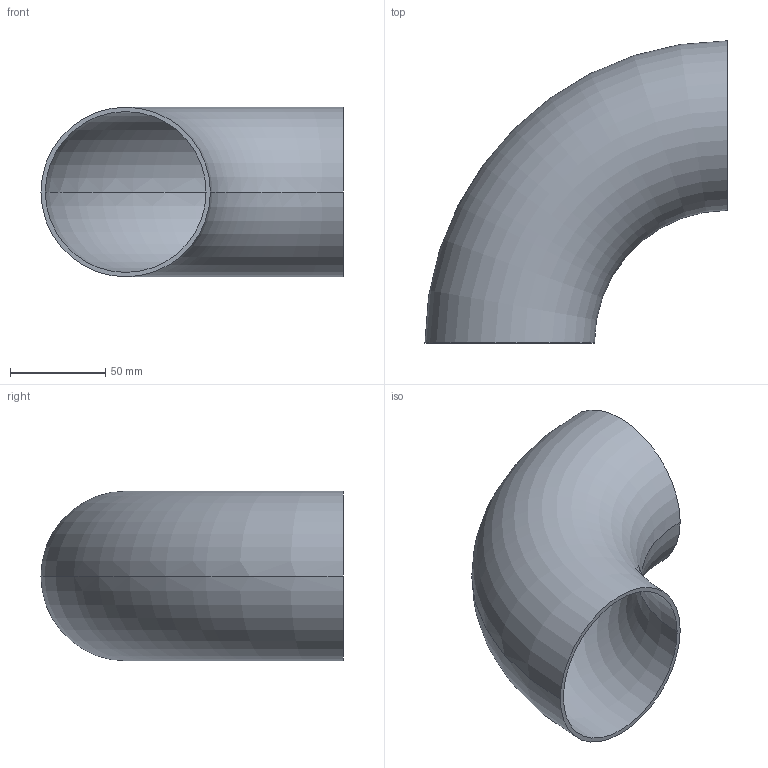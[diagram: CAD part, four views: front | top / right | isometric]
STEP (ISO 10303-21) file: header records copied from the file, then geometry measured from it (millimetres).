
FILE_DESCRIPTION (( 'STEP AP203' ), '1' );
FILE_NAME ('OT200-80-88_9x2_3_OSTP.step', '2020-12-16T02:38:17', ( '' ), ( '' ), 'SwSTEP 2.0', 'SolidWorks 2014', '' );
FILE_SCHEMA (( 'CONFIG_CONTROL_DESIGN' ));
Length unit declared in the file: millimetre
Products named in the file (1): OT200-80-88_9x2_3_OSTP
Bounding box: 158.45 x 158.45 x 88.9 mm (x, y, z)
Volume: 112052.2 mm3; surface area: 98688.2 mm2
Topology: 1 solids, 1 shells, 6 faces, 12 edges, 8 vertices
Faces by surface type: torus 4, plane 2
Entity records: 249 total; most frequent: DIRECTION 38, CARTESIAN_POINT 27, ORIENTED_EDGE 24, AXIS2_PLACEMENT_3D 19, CIRCLE 12, EDGE_CURVE 12, VERTEX_POINT 8, PERSON_AND_ORGANIZATION 8
